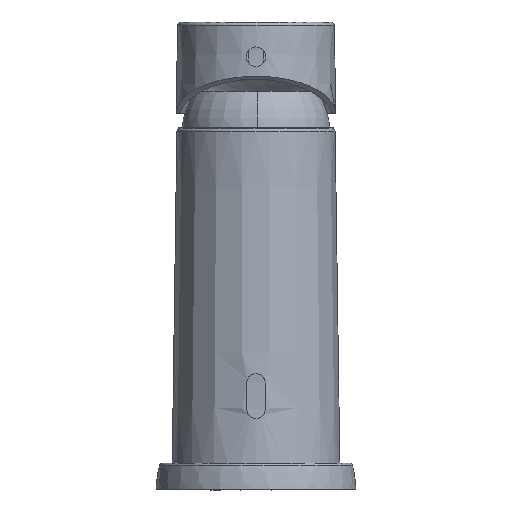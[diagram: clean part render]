
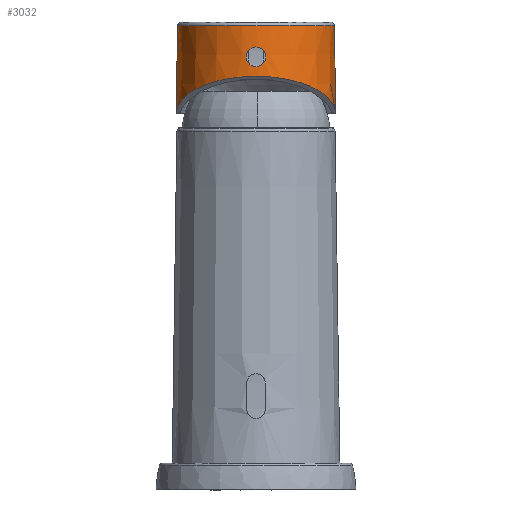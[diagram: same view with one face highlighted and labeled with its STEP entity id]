
A CAD part, front view. The second image highlights one B-rep face of the part: STEP entity #3032.
In plain terms, the highlighted conical face has half-angle 0.8 degrees and reference radius 21.4 mm.
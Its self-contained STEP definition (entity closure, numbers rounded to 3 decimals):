
#9 = CARTESIAN_POINT ( 'NONE',  ( 90.813, 17.013, 34.391 ) ) ;
#27 = CARTESIAN_POINT ( 'NONE',  ( 67.279, 38.043, 17.583 ) ) ;
#198 = ORIENTED_EDGE ( 'NONE', *, *, #8969, .T. ) ;
#554 = ORIENTED_EDGE ( 'NONE', *, *, #6625, .T. ) ;
#652 = CARTESIAN_POINT ( 'NONE',  ( 86.379, 16.984, 31.425 ) ) ;
#692 = EDGE_LOOP ( 'NONE', ( #4371, #3808, #554, #10569 ) ) ;
#700 = CARTESIAN_POINT ( 'NONE',  ( 87.062, 16.908, 30.644 ) ) ;
#777 = CARTESIAN_POINT ( 'NONE',  ( 89.032, 16.839, 30.11 ) ) ;
#831 = CARTESIAN_POINT ( 'NONE',  ( 90.313, 16.909, 30.634 ) ) ;
#975 = VERTEX_POINT ( 'NONE', #2730 ) ;
#1087 = AXIS2_PLACEMENT_3D ( 'NONE', #10477, #3238, #3024 ) ;
#1190 = LINE ( 'NONE', #6142, #2355 ) ;
#1351 = CARTESIAN_POINT ( 'NONE',  ( 86.568, 16.959, 31.14 ) ) ;
#1441 = B_SPLINE_CURVE_WITH_KNOTS ( 'NONE', 3,
 ( #4705, #3940, #8150, #4814, #8210, #831, #2392, #6481, #777, #8795 ),
 .UNSPECIFIED., .F., .F.,
 ( 4, 2, 2, 2, 4 ),
 ( 0.5, 0.625, 0.75, 0.875, 1. ),
 .UNSPECIFIED. ) ;
#1512 = CARTESIAN_POINT ( 'NONE',  ( 87.993, 16.93, 35.341 ) ) ;
#1628 = CARTESIAN_POINT ( 'NONE',  ( 91.005, 17.029, 34.104 ) ) ;
#1816 = CIRCLE ( 'NONE', #5249, 21.4 ) ;
#2104 = EDGE_CURVE ( 'NONE', #7281, #6398, #9673, .T. ) ;
#2111 = EDGE_CURVE ( 'NONE', #975, #7281, #5321, .T. ) ;
#2166 = CARTESIAN_POINT ( 'NONE',  ( 87.346, 16.956, 35.07 ) ) ;
#2355 = VECTOR ( 'NONE', #5444, 1000. ) ;
#2375 = CARTESIAN_POINT ( 'NONE',  ( 86.044, 17.047, 32.761 ) ) ;
#2392 = CARTESIAN_POINT ( 'NONE',  ( 90.025, 16.884, 30.443 ) ) ;
#2503 = VERTEX_POINT ( 'NONE', #7461 ) ;
#2662 = DIRECTION ( 'NONE',  ( 0., 0.002, 1. ) ) ;
#2673 = VERTEX_POINT ( 'NONE', #6212 ) ;
#2730 = CARTESIAN_POINT ( 'NONE',  ( 88.68, 16.839, 30.112 ) ) ;
#2767 = EDGE_CURVE ( 'NONE', #10572, #975, #1441, .T. ) ;
#2983 = CARTESIAN_POINT ( 'NONE',  ( 67.607, -4.095, 37.309 ) ) ;
#3024 = DIRECTION ( 'NONE',  ( -1., 0., 0. ) ) ;
#3032 = ADVANCED_FACE ( 'NONE', ( #5551, #8836 ), #8309, .T. ) ;
#3122 = CARTESIAN_POINT ( 'NONE',  ( 86.044, 17.051, 33.112 ) ) ;
#3238 = DIRECTION ( 'NONE',  ( 0., -0.002, -1. ) ) ;
#3245 = CARTESIAN_POINT ( 'NONE',  ( 88.68, 16.922, 35.411 ) ) ;
#3297 = CARTESIAN_POINT ( 'NONE',  ( 89.033, 16.922, 35.413 ) ) ;
#3351 = CARTESIAN_POINT ( 'NONE',  ( 90.026, 16.957, 35.079 ) ) ;
#3386 = AXIS2_PLACEMENT_3D ( 'NONE', #6656, #2662, #4380 ) ;
#3722 = CIRCLE ( 'NONE', #3386, 21.4 ) ;
#3808 = ORIENTED_EDGE ( 'NONE', *, *, #2104, .T. ) ;
#3884 = DIRECTION ( 'NONE',  ( 0., 0.002, 1. ) ) ;
#3940 = CARTESIAN_POINT ( 'NONE',  ( 91.344, 17.043, 32.409 ) ) ;
#4040 = CARTESIAN_POINT ( 'NONE',  ( 88.68, 16.839, 30.112 ) ) ;
#4371 = ORIENTED_EDGE ( 'NONE', *, *, #2111, .T. ) ;
#4380 = DIRECTION ( 'NONE',  ( -1., 0., 0. ) ) ;
#4529 = VERTEX_POINT ( 'NONE', #6911 ) ;
#4548 = DIRECTION ( 'NONE',  ( 0., -0.002, -1. ) ) ;
#4640 = CARTESIAN_POINT ( 'NONE',  ( 87.347, 16.884, 30.453 ) ) ;
#4705 = CARTESIAN_POINT ( 'NONE',  ( 91.344, 17.05, 32.761 ) ) ;
#4798 = CARTESIAN_POINT ( 'NONE',  ( 86.111, 17.026, 32.073 ) ) ;
#4814 = CARTESIAN_POINT ( 'NONE',  ( 91.005, 16.987, 31.418 ) ) ;
#4846 = CARTESIAN_POINT ( 'NONE',  ( 86.569, 17.01, 34.383 ) ) ;
#4916 = CARTESIAN_POINT ( 'NONE',  ( 91.344, 17.05, 32.761 ) ) ;
#5099 = VERTEX_POINT ( 'NONE', #8864 ) ;
#5158 = EDGE_CURVE ( 'NONE', #9611, #4529, #7468, .T. ) ;
#5212 = EDGE_CURVE ( 'NONE', #5099, #2673, #7605, .T. ) ;
#5249 = AXIS2_PLACEMENT_3D ( 'NONE', #9534, #3884, #10329 ) ;
#5321 = B_SPLINE_CURVE_WITH_KNOTS ( 'NONE', 3,
 ( #4040, #7117, #7327, #4640, #700, #1351, #652, #4798, #8074, #2375 ),
 .UNSPECIFIED., .F., .F.,
 ( 4, 2, 2, 2, 4 ),
 ( 0., 0.125, 0.25, 0.375, 0.5 ),
 .UNSPECIFIED. ) ;
#5355 = ORIENTED_EDGE ( 'NONE', *, *, #6442, .T. ) ;
#5444 = DIRECTION ( 'NONE',  ( 0.014, -0.002, -1. ) ) ;
#5497 = CARTESIAN_POINT ( 'NONE',  ( 86.379, 17.027, 34.098 ) ) ;
#5551 = FACE_OUTER_BOUND ( 'NONE', #6760, .T. ) ;
#5659 = CARTESIAN_POINT ( 'NONE',  ( 88.329, 16.922, 35.41 ) ) ;
#5721 = CARTESIAN_POINT ( 'NONE',  ( 89.373, 16.93, 35.347 ) ) ;
#5790 = VECTOR ( 'NONE', #7304, 1000. ) ;
#5953 = CARTESIAN_POINT ( 'NONE',  ( 86.044, 17.047, 32.761 ) ) ;
#6142 = CARTESIAN_POINT ( 'NONE',  ( 110.079, 38.043, 17.582 ) ) ;
#6166 = DIRECTION ( 'NONE',  ( -1., 0., 0. ) ) ;
#6212 = CARTESIAN_POINT ( 'NONE',  ( 110.079, 38.016, 17.582 ) ) ;
#6263 = CARTESIAN_POINT ( 'NONE',  ( 109.753, -4.095, 37.308 ) ) ;
#6355 = CARTESIAN_POINT ( 'NONE',  ( 86.112, 17.047, 33.452 ) ) ;
#6372 = CARTESIAN_POINT ( 'NONE',  ( 88.68, 38.084, 41.096 ) ) ;
#6398 = VERTEX_POINT ( 'NONE', #9636 ) ;
#6401 = CARTESIAN_POINT ( 'NONE',  ( 91.344, 17.05, 32.761 ) ) ;
#6408 = CARTESIAN_POINT ( 'NONE',  ( 88.68, 16.922, 35.411 ) ) ;
#6442 = EDGE_CURVE ( 'NONE', #7834, #5099, #1816, .T. ) ;
#6481 = CARTESIAN_POINT ( 'NONE',  ( 89.372, 16.849, 30.176 ) ) ;
#6575 = CARTESIAN_POINT ( 'NONE',  ( 91.276, 17.051, 33.453 ) ) ;
#6625 = EDGE_CURVE ( 'NONE', #6398, #10572, #8273, .T. ) ;
#6632 = CARTESIAN_POINT ( 'NONE',  ( 90.313, 16.976, 34.888 ) ) ;
#6656 = CARTESIAN_POINT ( 'NONE',  ( 88.679, 38.043, 17.582 ) ) ;
#6760 = EDGE_LOOP ( 'NONE', ( #8916, #8729, #198, #5355, #8469, #8363 ) ) ;
#6911 = CARTESIAN_POINT ( 'NONE',  ( 67.608, 38.084, 41.096 ) ) ;
#7117 = CARTESIAN_POINT ( 'NONE',  ( 88.329, 16.839, 30.113 ) ) ;
#7281 = VERTEX_POINT ( 'NONE', #5953 ) ;
#7304 = DIRECTION ( 'NONE',  ( -0.014, -0.002, -1. ) ) ;
#7327 = CARTESIAN_POINT ( 'NONE',  ( 87.992, 16.849, 30.182 ) ) ;
#7461 = CARTESIAN_POINT ( 'NONE',  ( 110.079, 38.043, 17.582 ) ) ;
#7468 = CIRCLE ( 'NONE', #7801, 21.072 ) ;
#7605 =( BOUNDED_CURVE ( )  B_SPLINE_CURVE ( 3, ( #10337, #2983, #6263, #9806 ),
 .UNSPECIFIED., .F., .T. ) 
 B_SPLINE_CURVE_WITH_KNOTS ( ( 4, 4 ),
 ( 1.579, 4.705 ),
 .UNSPECIFIED. ) 
 CURVE ( )  GEOMETRIC_REPRESENTATION_ITEM ( )  RATIONAL_B_SPLINE_CURVE ( ( 1., 0.339, 0.339, 1. ) ) 
 REPRESENTATION_ITEM ( '' )  );
#7801 = AXIS2_PLACEMENT_3D ( 'NONE', #6372, #4548, #6166 ) ;
#7834 = VERTEX_POINT ( 'NONE', #9095 ) ;
#8024 = CARTESIAN_POINT ( 'NONE',  ( 86.044, 17.047, 32.761 ) ) ;
#8074 = CARTESIAN_POINT ( 'NONE',  ( 86.044, 17.04, 32.41 ) ) ;
#8150 = CARTESIAN_POINT ( 'NONE',  ( 91.276, 17.029, 32.07 ) ) ;
#8210 = CARTESIAN_POINT ( 'NONE',  ( 90.813, 16.961, 31.132 ) ) ;
#8273 = B_SPLINE_CURVE_WITH_KNOTS ( 'NONE', 3,
 ( #3245, #3297, #5721, #3351, #6632, #9, #1628, #6575, #9009, #4916 ),
 .UNSPECIFIED., .F., .F.,
 ( 4, 2, 2, 2, 4 ),
 ( 0., 0.125, 0.25, 0.375, 0.5 ),
 .UNSPECIFIED. ) ;
#8309 = CONICAL_SURFACE ( 'NONE', #1087, 21.4, 0.014 ) ;
#8363 = ORIENTED_EDGE ( 'NONE', *, *, #9065, .T. ) ;
#8469 = ORIENTED_EDGE ( 'NONE', *, *, #5212, .T. ) ;
#8729 = ORIENTED_EDGE ( 'NONE', *, *, #5158, .T. ) ;
#8769 = LINE ( 'NONE', #27, #5790 ) ;
#8795 = CARTESIAN_POINT ( 'NONE',  ( 88.68, 16.839, 30.112 ) ) ;
#8834 = CARTESIAN_POINT ( 'NONE',  ( 87.062, 16.974, 34.879 ) ) ;
#8836 = FACE_BOUND ( 'NONE', #692, .T. ) ;
#8864 = CARTESIAN_POINT ( 'NONE',  ( 67.279, 38.016, 17.583 ) ) ;
#8916 = ORIENTED_EDGE ( 'NONE', *, *, #10327, .F. ) ;
#8969 = EDGE_CURVE ( 'NONE', #4529, #7834, #8769, .T. ) ;
#9009 = CARTESIAN_POINT ( 'NONE',  ( 91.344, 17.054, 33.114 ) ) ;
#9065 = EDGE_CURVE ( 'NONE', #2673, #2503, #3722, .T. ) ;
#9095 = CARTESIAN_POINT ( 'NONE',  ( 67.279, 38.043, 17.583 ) ) ;
#9342 = CARTESIAN_POINT ( 'NONE',  ( 109.751, 38.084, 41.096 ) ) ;
#9534 = CARTESIAN_POINT ( 'NONE',  ( 88.679, 38.043, 17.582 ) ) ;
#9611 = VERTEX_POINT ( 'NONE', #9342 ) ;
#9636 = CARTESIAN_POINT ( 'NONE',  ( 88.68, 16.922, 35.411 ) ) ;
#9673 = B_SPLINE_CURVE_WITH_KNOTS ( 'NONE', 3,
 ( #8024, #3122, #6355, #5497, #4846, #8834, #2166, #1512, #5659, #6408 ),
 .UNSPECIFIED., .F., .F.,
 ( 4, 2, 2, 2, 4 ),
 ( 0.5, 0.625, 0.75, 0.875, 1. ),
 .UNSPECIFIED. ) ;
#9806 = CARTESIAN_POINT ( 'NONE',  ( 110.079, 38.016, 17.582 ) ) ;
#10327 = EDGE_CURVE ( 'NONE', #9611, #2503, #1190, .T. ) ;
#10329 = DIRECTION ( 'NONE',  ( -1., 0., 0. ) ) ;
#10337 = CARTESIAN_POINT ( 'NONE',  ( 67.279, 38.016, 17.583 ) ) ;
#10477 = CARTESIAN_POINT ( 'NONE',  ( 88.679, 38.043, 17.582 ) ) ;
#10569 = ORIENTED_EDGE ( 'NONE', *, *, #2767, .T. ) ;
#10572 = VERTEX_POINT ( 'NONE', #6401 ) ;
